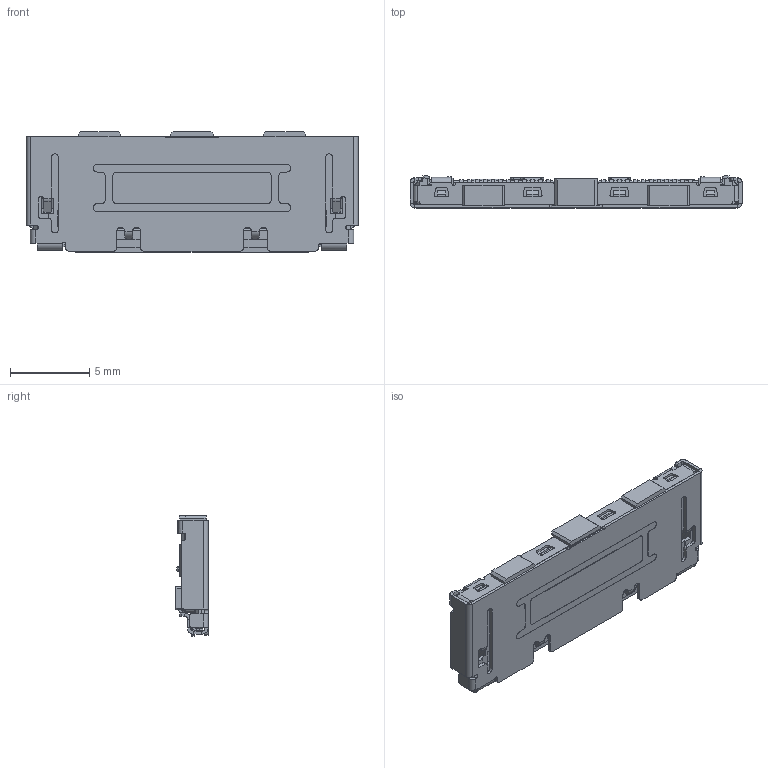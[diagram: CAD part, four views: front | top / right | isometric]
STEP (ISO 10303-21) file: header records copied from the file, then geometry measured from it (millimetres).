
FILE_DESCRIPTION((''),'2;1');
FILE_NAME('50407-XXXXX-XXX_ASM','2010-05-20T',('alexchen'),(''),'PRO/ENGINEER BY PARAMETRIC TECHNOLOGY CORPORATION, 2007450','PRO/ENGINEER BY PARAMETRIC TECHNOLOGY CORPORATION, 2007450','');
FILE_SCHEMA(('CONFIG_CONTROL_DESIGN', 'GEOMETRIC_VALIDATION_PROPERTIES_MIM'));
Length unit declared in the file: millimetre
Products named in the file (7): 50407-XXXPXXX; 50399-TXXX-030; 50399-TXXX-030_ASM; 50407-XXXPXXX_ASM; 50407-M7XX; 50407-M8XX; 50407-XXXXX-XXX_ASM
Assembly tree (36 placements, depth 4):
  50407-XXXXX-XXX_ASM
    50407-XXXPXXX_ASM
      50407-XXXPXXX
      50399-TXXX-030
      50399-TXXX-030_ASM
        50399-TXXX-030  x30
    50407-M7XX
    50407-M8XX
Bounding box: 21 x 2.02 x 7.62 mm (x, y, z)
Volume: 135.8 mm3; surface area: 1176.5 mm2
Topology: 46 solids, 46 shells, 3841 faces, 10626 edges, 6828 vertices
Faces by surface type: plane 2907, cylinder 911, bspline 23
Entity records: 101148 total; most frequent: CARTESIAN_POINT 17514, ORIENTED_EDGE 16212, DIRECTION 15234, EDGE_CURVE 8106, VECTOR 6626, LINE 6626, VERTEX_POINT 5148, AXIS2_PLACEMENT_3D 4304
